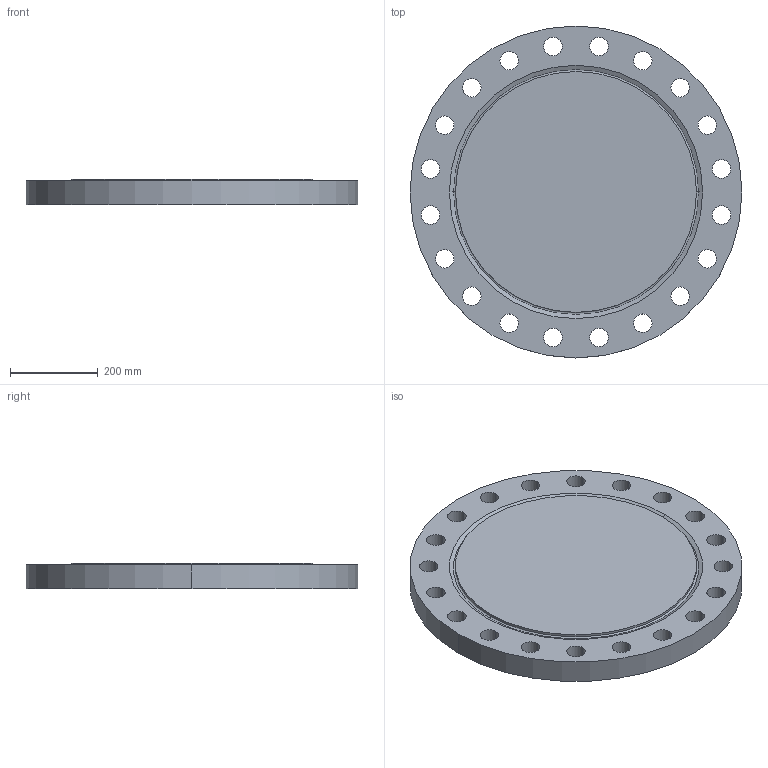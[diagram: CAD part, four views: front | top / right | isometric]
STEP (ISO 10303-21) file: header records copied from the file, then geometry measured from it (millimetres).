
FILE_DESCRIPTION (( 'STEP AP214' ), '1' );
FILE_NAME ('PN40 DN500 Type 05 - Type H Face.STEP', '2018-12-29T01:29:46', ( '' ), ( '' ), 'SwSTEP 2.0', 'SolidWorks 2019', '' );
FILE_SCHEMA (( 'AUTOMOTIVE_DESIGN' ));
Length unit declared in the file: millimetre
Products named in the file (1): PN40 DN500 Type 05 - Type H Face
Bounding box: 755 x 755 x 57 mm (x, y, z)
Volume: 23311100.5 mm3; surface area: 1124069.8 mm2
Topology: 1 solids, 1 shells, 51 faces, 140 edges, 92 vertices
Faces by surface type: cylinder 44, plane 3, torus 2, cone 2
Entity records: 1790 total; most frequent: DIRECTION 338, CARTESIAN_POINT 284, ORIENTED_EDGE 280, AXIS2_PLACEMENT_3D 146, EDGE_CURVE 140, CIRCLE 94, EDGE_LOOP 92, VERTEX_POINT 92
